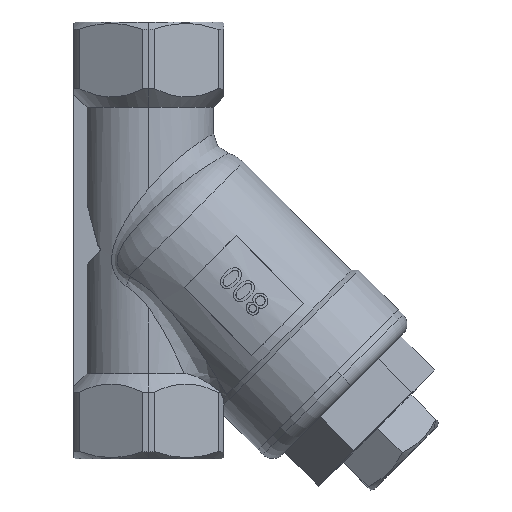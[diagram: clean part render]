
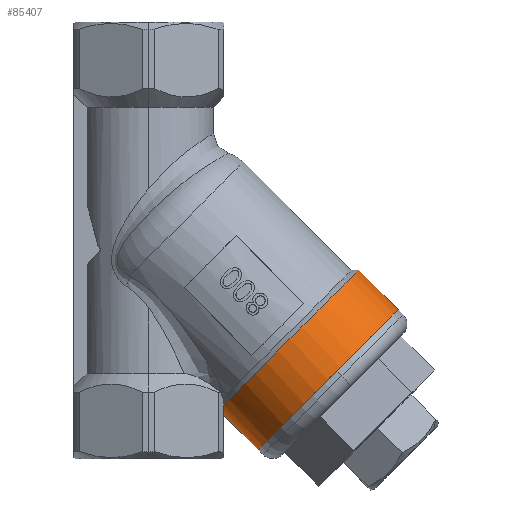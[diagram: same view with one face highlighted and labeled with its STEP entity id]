
A CAD part, left-side view. The second image highlights one B-rep face of the part: STEP entity #85407.
In plain terms, the highlighted cylindrical face has radius 14.5 mm (diameter 29 mm), a partial arc.
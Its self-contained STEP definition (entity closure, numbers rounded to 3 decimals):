
#10838 = AXIS2_PLACEMENT_3D ( 'NONE', #49094, #49075, #49115 ) ;
#10868 = AXIS2_PLACEMENT_3D ( 'NONE', #49351, #49396, #49311 ) ;
#11057 = AXIS2_PLACEMENT_3D ( 'NONE', #50357, #50416, #50334 ) ;
#26730 =( BOUNDED_CURVE ( )  B_SPLINE_CURVE ( 3, ( #49020, #48973, #48987, #49001 ),
 .UNSPECIFIED., .F., .F. ) 
 B_SPLINE_CURVE_WITH_KNOTS ( ( 4, 4 ),
 ( 0., 0.381 ),
 .UNSPECIFIED. ) 
 CURVE ( )  GEOMETRIC_REPRESENTATION_ITEM ( )  RATIONAL_B_SPLINE_CURVE ( ( 1., 0.988, 0.988, 1. ) ) 
 REPRESENTATION_ITEM ( '' )  );
#26803 = B_SPLINE_CURVE_WITH_KNOTS ( 'NONE', 3,
 ( #49166, #49242, #49246, #49284 ),
 .UNSPECIFIED., .F., .F.,
 ( 4, 4 ),
 ( 0.014, 0.014 ),
 .UNSPECIFIED. ) ;
#37020 = LINE ( 'NONE', #48868, #37024 ) ;
#37024 = VECTOR ( 'NONE', #48879, 1000. ) ;
#37026 = LINE ( 'NONE', #48929, #37032 ) ;
#37032 = VECTOR ( 'NONE', #48890, 1000. ) ;
#37058 = CIRCLE ( 'NONE', #10838, 14.5 ) ;
#37105 = CIRCLE ( 'NONE', #10868, 14.5 ) ;
#48868 = CARTESIAN_POINT ( 'NONE',  ( 0., -30.052, -3.646 ) ) ;
#48879 = DIRECTION ( 'NONE',  ( 0., -0.707, -0.707 ) ) ;
#48890 = DIRECTION ( 'NONE',  ( 0., -0.707, -0.707 ) ) ;
#48929 = CARTESIAN_POINT ( 'NONE',  ( 0., -9.546, -24.152 ) ) ;
#48973 = CARTESIAN_POINT ( 'NONE',  ( -1.852, -11., -25.606 ) ) ;
#48987 = CARTESIAN_POINT ( 'NONE',  ( -3.671, -11., -25.11 ) ) ;
#49001 = CARTESIAN_POINT ( 'NONE',  ( -5.391, -11., -24.136 ) ) ;
#49020 = CARTESIAN_POINT ( 'NONE',  ( 0., -11., -25.606 ) ) ;
#49075 = DIRECTION ( 'NONE',  ( 0., -0.707, -0.707 ) ) ;
#49094 = CARTESIAN_POINT ( 'NONE',  ( 0., -20.506, -14.606 ) ) ;
#49115 = DIRECTION ( 'NONE',  ( 0., 0.707, -0.707 ) ) ;
#49166 = CARTESIAN_POINT ( 'NONE',  ( -5.391, -11., -24.136 ) ) ;
#49242 = CARTESIAN_POINT ( 'NONE',  ( -5.396, -10.997, -24.131 ) ) ;
#49246 = CARTESIAN_POINT ( 'NONE',  ( -5.401, -10.995, -24.125 ) ) ;
#49284 = CARTESIAN_POINT ( 'NONE',  ( -5.406, -10.992, -24.12 ) ) ;
#49311 = DIRECTION ( 'NONE',  ( 0., 0.707, -0.707 ) ) ;
#49351 = CARTESIAN_POINT ( 'NONE',  ( 0., -26.304, -20.404 ) ) ;
#49396 = DIRECTION ( 'NONE',  ( 0., 0.707, 0.707 ) ) ;
#50334 = DIRECTION ( 'NONE',  ( 0., 0.707, -0.707 ) ) ;
#50357 = CARTESIAN_POINT ( 'NONE',  ( 0., -19.799, -13.899 ) ) ;
#50416 = DIRECTION ( 'NONE',  ( 0., -0.707, -0.707 ) ) ;
#51142 = FACE_OUTER_BOUND ( 'NONE', #91189, .T. ) ;
#51185 = CYLINDRICAL_SURFACE ( 'NONE', #11057, 14.5 ) ;
#69187 = EDGE_CURVE ( 'NONE', #77265, #77262, #37026, .T. ) ;
#69189 = EDGE_CURVE ( 'NONE', #77328, #77290, #37020, .T. ) ;
#69199 = EDGE_CURVE ( 'NONE', #77265, #77321, #26730, .T. ) ;
#69207 = EDGE_CURVE ( 'NONE', #77328, #77327, #37058, .T. ) ;
#69222 = EDGE_CURVE ( 'NONE', #77321, #77327, #26803, .T. ) ;
#69235 = EDGE_CURVE ( 'NONE', #77262, #77290, #37105, .T. ) ;
#73616 = ORIENTED_EDGE ( 'NONE', *, *, #69199, .F. ) ;
#73633 = ORIENTED_EDGE ( 'NONE', *, *, #69189, .F. ) ;
#73667 = ORIENTED_EDGE ( 'NONE', *, *, #69222, .F. ) ;
#73716 = ORIENTED_EDGE ( 'NONE', *, *, #69235, .T. ) ;
#73718 = ORIENTED_EDGE ( 'NONE', *, *, #69187, .T. ) ;
#73731 = ORIENTED_EDGE ( 'NONE', *, *, #69207, .T. ) ;
#77262 = VERTEX_POINT ( 'NONE', #81767 ) ;
#77265 = VERTEX_POINT ( 'NONE', #81789 ) ;
#77290 = VERTEX_POINT ( 'NONE', #81898 ) ;
#77321 = VERTEX_POINT ( 'NONE', #81894 ) ;
#77327 = VERTEX_POINT ( 'NONE', #81983 ) ;
#77328 = VERTEX_POINT ( 'NONE', #81985 ) ;
#81767 = CARTESIAN_POINT ( 'NONE',  ( 0., -16.051, -30.657 ) ) ;
#81789 = CARTESIAN_POINT ( 'NONE',  ( 0., -11., -25.606 ) ) ;
#81894 = CARTESIAN_POINT ( 'NONE',  ( -5.391, -11., -24.136 ) ) ;
#81898 = CARTESIAN_POINT ( 'NONE',  ( 0., -36.557, -10.151 ) ) ;
#81983 = CARTESIAN_POINT ( 'NONE',  ( -5.406, -10.992, -24.12 ) ) ;
#81985 = CARTESIAN_POINT ( 'NONE',  ( 0., -30.759, -4.353 ) ) ;
#85407 = ADVANCED_FACE ( 'NONE', ( #51142 ), #51185, .T. ) ;
#91189 = EDGE_LOOP ( 'NONE', ( #73633, #73731, #73667, #73616, #73718, #73716 ) ) ;
